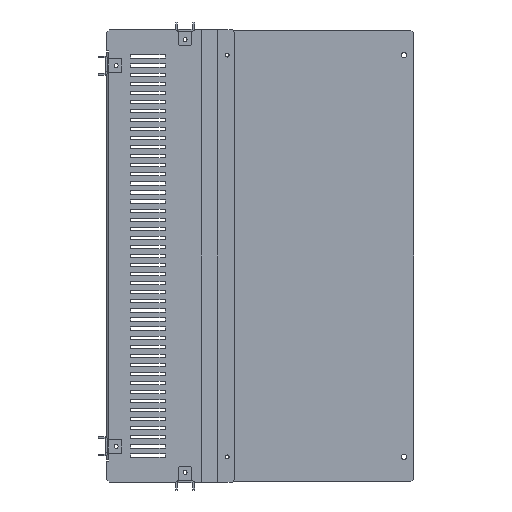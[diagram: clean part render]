
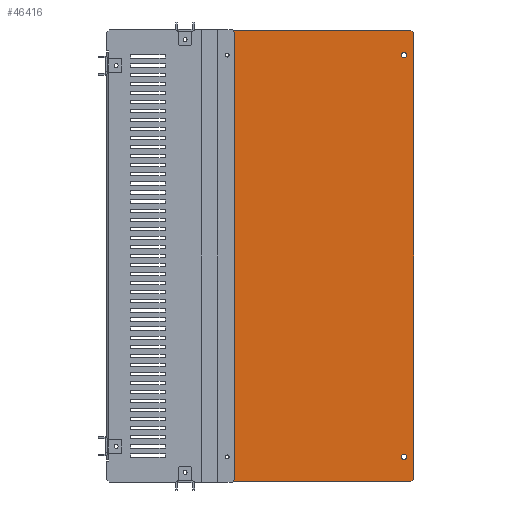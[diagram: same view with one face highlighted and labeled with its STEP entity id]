
A CAD part, front view. The second image highlights one B-rep face of the part: STEP entity #46416.
In plain terms, the highlighted planar face has unit normal (0, -1, 0) as drawn and (0, 0, -1) by its records, which use the part's own axes.
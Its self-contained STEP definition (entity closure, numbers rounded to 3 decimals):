
#45616=CARTESIAN_POINT(' ',(221.5,-97.5,-2.));
#45621=DIRECTION(' ',(0.,-0.,1.));
#45626=DIRECTION(' ',(-1.,0.,0.));
#45631=AXIS2_PLACEMENT_3D(' ',#45616,#45621,#45626);
#45636=CIRCLE('',#45631,3.);
#45641=CARTESIAN_POINT(' ',(218.5,-97.5,-2.));
#45642=VERTEX_POINT(' ',#45641);
#45646=CARTESIAN_POINT(' ',(224.5,-97.5,-2.));
#45647=VERTEX_POINT(' ',#45646);
#45651=EDGE_CURVE(' ',#45642,#45647,#45636,.T.);
#45781=DIRECTION(' ',(0.,-0.,-1.));
#45786=CARTESIAN_POINT(' ',(-249.,-108.,-2.));
#45791=DIRECTION(' ',(0.,1.,-0.));
#45796=AXIS2_PLACEMENT_3D(' ',#45786,#45781,#45791);
#45801=PLANE('NONE',#45796);
#45806=CARTESIAN_POINT(' ',(-249.,105.,-2.));
#45811=DIRECTION(' ',(0.,-1.,0.));
#45816=VECTOR(' ',#45811,1.);
#45821=LINE('',#45806,#45816);
#45826=CARTESIAN_POINT(' ',(-249.,105.,-2.));
#45827=VERTEX_POINT(' ',#45826);
#45831=CARTESIAN_POINT(' ',(-249.,-105.,-2.));
#45832=VERTEX_POINT(' ',#45831);
#45836=EDGE_CURVE(' ',#45827,#45832,#45821,.T.);
#45841=ORIENTED_EDGE(' ',*,*,#45836,.F.);
#45846=CARTESIAN_POINT(' ',(-249.,105.,-2.));
#45851=DIRECTION(' ',(0.707,0.707,0.));
#45856=VECTOR(' ',#45851,1.);
#45861=LINE('',#45846,#45856);
#45866=CARTESIAN_POINT(' ',(-246.,108.,-2.));
#45867=VERTEX_POINT(' ',#45866);
#45871=EDGE_CURVE(' ',#45827,#45867,#45861,.T.);
#45876=ORIENTED_EDGE(' ',*,*,#45871,.T.);
#45881=CARTESIAN_POINT(' ',(246.,108.,-2.));
#45886=DIRECTION(' ',(-1.,0.,0.));
#45891=VECTOR(' ',#45886,1.);
#45896=LINE('',#45881,#45891);
#45901=CARTESIAN_POINT(' ',(246.,108.,-2.));
#45902=VERTEX_POINT(' ',#45901);
#45906=EDGE_CURVE(' ',#45902,#45867,#45896,.T.);
#45911=ORIENTED_EDGE(' ',*,*,#45906,.F.);
#45916=CARTESIAN_POINT(' ',(246.,108.,-2.));
#45921=DIRECTION(' ',(0.707,-0.707,0.));
#45926=VECTOR(' ',#45921,1.);
#45931=LINE('',#45916,#45926);
#45936=CARTESIAN_POINT(' ',(249.,105.,-2.));
#45937=VERTEX_POINT(' ',#45936);
#45941=EDGE_CURVE(' ',#45902,#45937,#45931,.T.);
#45946=ORIENTED_EDGE(' ',*,*,#45941,.T.);
#45951=CARTESIAN_POINT(' ',(249.,-105.,-2.));
#45956=DIRECTION(' ',(0.,1.,0.));
#45961=VECTOR(' ',#45956,1.);
#45966=LINE('',#45951,#45961);
#45971=CARTESIAN_POINT(' ',(249.,-105.,-2.));
#45972=VERTEX_POINT(' ',#45971);
#45976=EDGE_CURVE(' ',#45972,#45937,#45966,.T.);
#45981=ORIENTED_EDGE(' ',*,*,#45976,.F.);
#45986=CARTESIAN_POINT(' ',(249.,-105.,-2.));
#45991=DIRECTION(' ',(-0.707,-0.707,0.));
#45996=VECTOR(' ',#45991,1.);
#46001=LINE('',#45986,#45996);
#46006=CARTESIAN_POINT(' ',(246.,-108.,-2.));
#46007=VERTEX_POINT(' ',#46006);
#46011=EDGE_CURVE(' ',#45972,#46007,#46001,.T.);
#46016=ORIENTED_EDGE(' ',*,*,#46011,.T.);
#46021=CARTESIAN_POINT(' ',(-246.,-108.,-2.));
#46026=DIRECTION(' ',(1.,0.,0.));
#46031=VECTOR(' ',#46026,1.);
#46036=LINE('',#46021,#46031);
#46041=CARTESIAN_POINT(' ',(-246.,-108.,-2.));
#46042=VERTEX_POINT(' ',#46041);
#46046=EDGE_CURVE(' ',#46042,#46007,#46036,.T.);
#46051=ORIENTED_EDGE(' ',*,*,#46046,.F.);
#46056=CARTESIAN_POINT(' ',(-246.,-108.,-2.));
#46061=DIRECTION(' ',(-0.707,0.707,0.));
#46066=VECTOR(' ',#46061,1.);
#46071=LINE('',#46056,#46066);
#46076=EDGE_CURVE(' ',#46042,#45832,#46071,.T.);
#46081=ORIENTED_EDGE(' ',*,*,#46076,.T.);
#46086=EDGE_LOOP(' ',(#45841,#45876,#45911,#45946,#45981,#46016,#46051,#46081));
#46091=FACE_OUTER_BOUND(' ',#46086,.T.);
#46096=CARTESIAN_POINT(' ',(221.5,-97.5,-2.));
#46101=DIRECTION(' ',(0.,0.,1.));
#46106=DIRECTION(' ',(1.,0.,0.));
#46111=AXIS2_PLACEMENT_3D(' ',#46096,#46101,#46106);
#46116=CIRCLE('',#46111,3.);
#46121=EDGE_CURVE(' ',#45647,#45642,#46116,.T.);
#46126=ORIENTED_EDGE(' ',*,*,#46121,.T.);
#46131=ORIENTED_EDGE(' ',*,*,#45651,.T.);
#46136=EDGE_LOOP(' ',(#46126,#46131));
#46141=FACE_BOUND(' ',#46136,.T.);
#46146=CARTESIAN_POINT(' ',(-221.5,97.5,-2.));
#46151=DIRECTION(' ',(0.,0.,1.));
#46156=DIRECTION(' ',(1.,0.,0.));
#46161=AXIS2_PLACEMENT_3D(' ',#46146,#46151,#46156);
#46166=CIRCLE('',#46161,3.);
#46171=CARTESIAN_POINT(' ',(-218.5,97.5,-2.));
#46172=VERTEX_POINT(' ',#46171);
#46176=CARTESIAN_POINT(' ',(-224.5,97.5,-2.));
#46177=VERTEX_POINT(' ',#46176);
#46181=EDGE_CURVE(' ',#46172,#46177,#46166,.T.);
#46186=ORIENTED_EDGE(' ',*,*,#46181,.T.);
#46191=CARTESIAN_POINT(' ',(-221.5,97.5,-2.));
#46196=DIRECTION(' ',(0.,-0.,1.));
#46201=DIRECTION(' ',(-1.,0.,0.));
#46206=AXIS2_PLACEMENT_3D(' ',#46191,#46196,#46201);
#46211=CIRCLE('',#46206,3.);
#46216=EDGE_CURVE(' ',#46177,#46172,#46211,.T.);
#46221=ORIENTED_EDGE(' ',*,*,#46216,.T.);
#46226=EDGE_LOOP(' ',(#46186,#46221));
#46231=FACE_BOUND(' ',#46226,.T.);
#46236=CARTESIAN_POINT(' ',(221.5,97.5,-2.));
#46241=DIRECTION(' ',(0.,0.,1.));
#46246=DIRECTION(' ',(1.,0.,0.));
#46251=AXIS2_PLACEMENT_3D(' ',#46236,#46241,#46246);
#46256=CIRCLE('',#46251,3.);
#46261=CARTESIAN_POINT(' ',(224.5,97.5,-2.));
#46262=VERTEX_POINT(' ',#46261);
#46266=CARTESIAN_POINT(' ',(218.5,97.5,-2.));
#46267=VERTEX_POINT(' ',#46266);
#46271=EDGE_CURVE(' ',#46262,#46267,#46256,.T.);
#46276=ORIENTED_EDGE(' ',*,*,#46271,.T.);
#46281=CARTESIAN_POINT(' ',(221.5,97.5,-2.));
#46286=DIRECTION(' ',(0.,-0.,1.));
#46291=DIRECTION(' ',(-1.,0.,0.));
#46296=AXIS2_PLACEMENT_3D(' ',#46281,#46286,#46291);
#46301=CIRCLE('',#46296,3.);
#46306=EDGE_CURVE(' ',#46267,#46262,#46301,.T.);
#46311=ORIENTED_EDGE(' ',*,*,#46306,.T.);
#46316=EDGE_LOOP(' ',(#46276,#46311));
#46321=FACE_BOUND(' ',#46316,.T.);
#46326=CARTESIAN_POINT(' ',(-221.5,-97.5,-2.));
#46331=DIRECTION(' ',(0.,0.,1.));
#46336=DIRECTION(' ',(1.,0.,0.));
#46341=AXIS2_PLACEMENT_3D(' ',#46326,#46331,#46336);
#46346=CIRCLE('',#46341,3.);
#46351=CARTESIAN_POINT(' ',(-218.5,-97.5,-2.));
#46352=VERTEX_POINT(' ',#46351);
#46356=CARTESIAN_POINT(' ',(-224.5,-97.5,-2.));
#46357=VERTEX_POINT(' ',#46356);
#46361=EDGE_CURVE(' ',#46352,#46357,#46346,.T.);
#46366=ORIENTED_EDGE(' ',*,*,#46361,.T.);
#46371=CARTESIAN_POINT(' ',(-221.5,-97.5,-2.));
#46376=DIRECTION(' ',(0.,-0.,1.));
#46381=DIRECTION(' ',(-1.,0.,0.));
#46386=AXIS2_PLACEMENT_3D(' ',#46371,#46376,#46381);
#46391=CIRCLE('',#46386,3.);
#46396=EDGE_CURVE(' ',#46357,#46352,#46391,.T.);
#46401=ORIENTED_EDGE(' ',*,*,#46396,.T.);
#46406=EDGE_LOOP(' ',(#46366,#46401));
#46411=FACE_BOUND(' ',#46406,.T.);
#46416=ADVANCED_FACE('NONE',(#46091,#46141,#46231,#46321,#46411),#45801,.T.);
